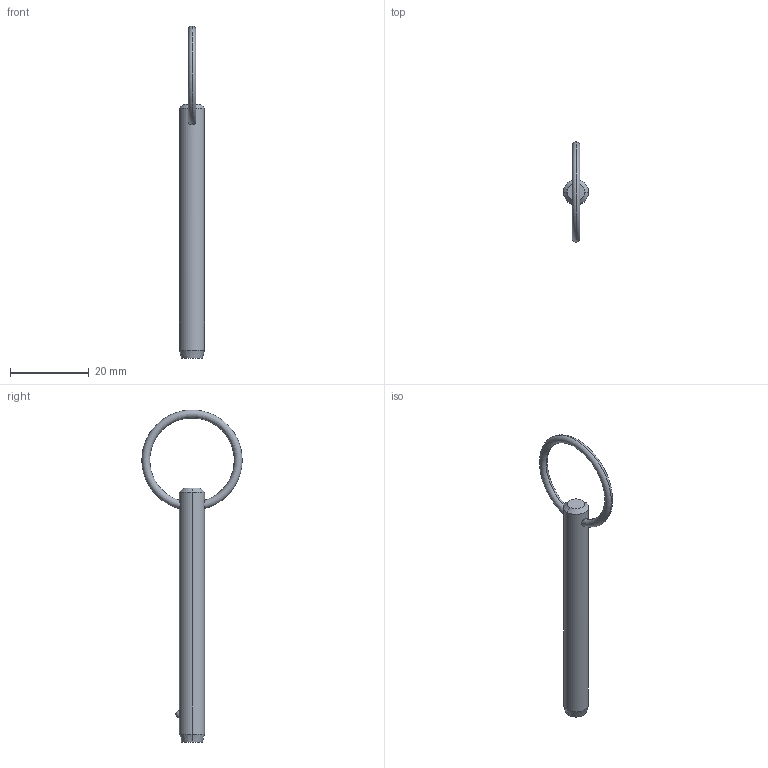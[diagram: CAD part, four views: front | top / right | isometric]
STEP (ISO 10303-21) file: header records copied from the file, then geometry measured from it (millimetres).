
FILE_DESCRIPTION (( 'STEP AP203' ), '1' );
FILE_NAME ('P1250.025-200.step', '2019-07-29T19:42:06', ( '' ), ( '' ), 'SwSTEP 2.0', 'SolidWorks 2017', '' );
FILE_SCHEMA (( 'CONFIG_CONTROL_DESIGN' ));
Length unit declared in the file: millimetre
Products named in the file (1): P1250.025-200
Bounding box: 6.35 x 25.38 x 84.12 mm (x, y, z)
Volume: 2230 mm3; surface area: 1740.1 mm2
Topology: 1 solids, 1 shells, 12 faces, 28 edges, 17 vertices
Faces by surface type: cone 4, torus 2, sphere 2, cylinder 2, plane 2
Entity records: 481 total; most frequent: CARTESIAN_POINT 148, DIRECTION 56, ORIENTED_EDGE 48, AXIS2_PLACEMENT_3D 25, EDGE_CURVE 24, VERTEX_POINT 15, EDGE_LOOP 15, CIRCLE 12
